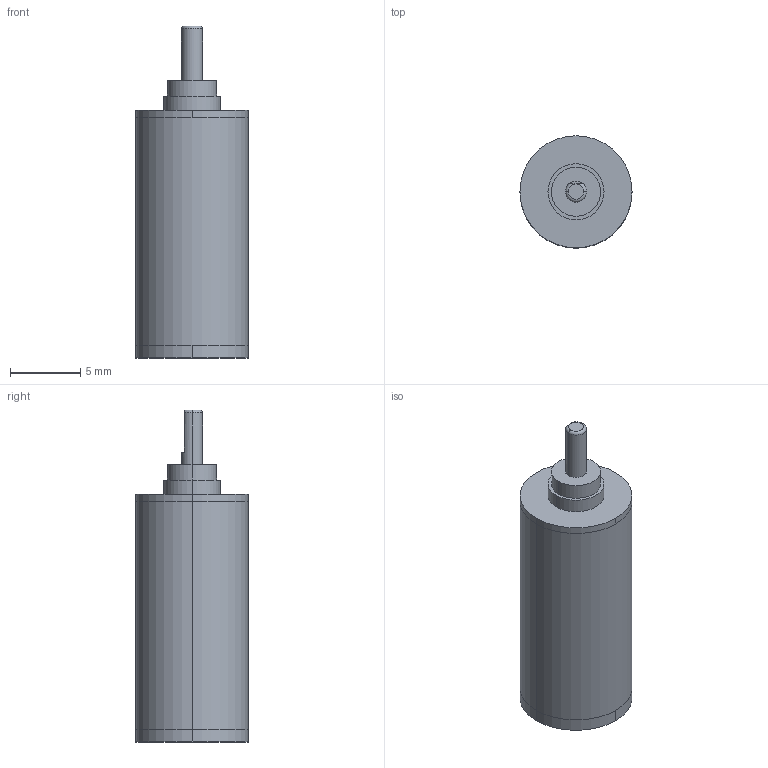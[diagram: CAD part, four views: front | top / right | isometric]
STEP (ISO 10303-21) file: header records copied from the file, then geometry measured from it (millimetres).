
FILE_DESCRIPTION (( 'STEP AP203' ), '1' );
FILE_NAME ('IG-08(I)-4stage.STEP', '2023-03-23T01:38:37', ( '' ), ( '' ), 'SwSTEP 2.0', 'SolidWorks 2019', '' );
FILE_SCHEMA (( 'CONFIG_CONTROL_DESIGN' ));
Length unit declared in the file: millimetre
Products named in the file (1): IG-08(I)-4stage
Bounding box: 8 x 8 x 23.7 mm (x, y, z)
Volume: 965.5 mm3; surface area: 861.7 mm2
Topology: 3 solids, 3 shells, 35 faces, 66 edges, 43 vertices
Faces by surface type: cylinder 18, plane 14, torus 3
Entity records: 982 total; most frequent: DIRECTION 179, CARTESIAN_POINT 159, ORIENTED_EDGE 132, AXIS2_PLACEMENT_3D 79, EDGE_CURVE 66, VERTEX_POINT 43, CIRCLE 43, EDGE_LOOP 41
